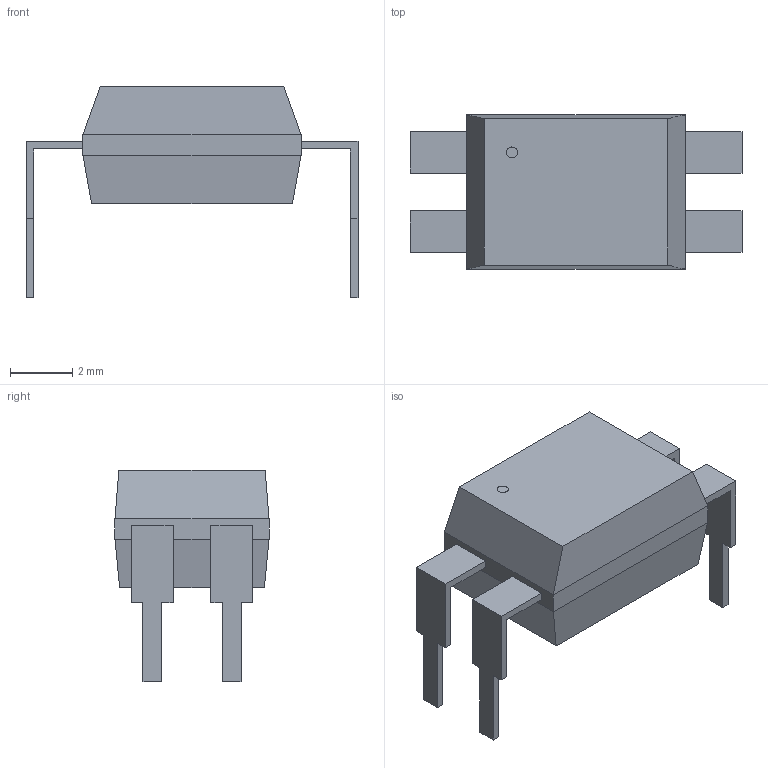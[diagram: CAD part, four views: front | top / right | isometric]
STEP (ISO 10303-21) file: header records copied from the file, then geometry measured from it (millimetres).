
FILE_DESCRIPTION(('STEP AP214'),'1');
FILE_NAME('DIP-4_REN','2024-02-14T05:04:53',(''),(''),'','','');
FILE_SCHEMA(('AUTOMOTIVE_DESIGN'));
Length unit declared in the file: millimetre
Products named in the file (1): product
Bounding box: 10.67 x 4.95 x 6.81 mm (x, y, z)
Volume: 129.1 mm3; surface area: 217.8 mm2
Topology: 6 solids, 6 shells, 65 faces, 151 edges, 98 vertices
Faces by surface type: plane 64, cylinder 1
Full cylindrical faces by diameter (mm): 0.351 x1
Entity records: 1877 total; most frequent: ORIENTED_EDGE 300, DIRECTION 286, CARTESIAN_POINT 167, EDGE_CURVE 150, LINE 148, VECTOR 148, VERTEX_POINT 98, AXIS2_PLACEMENT_3D 69
